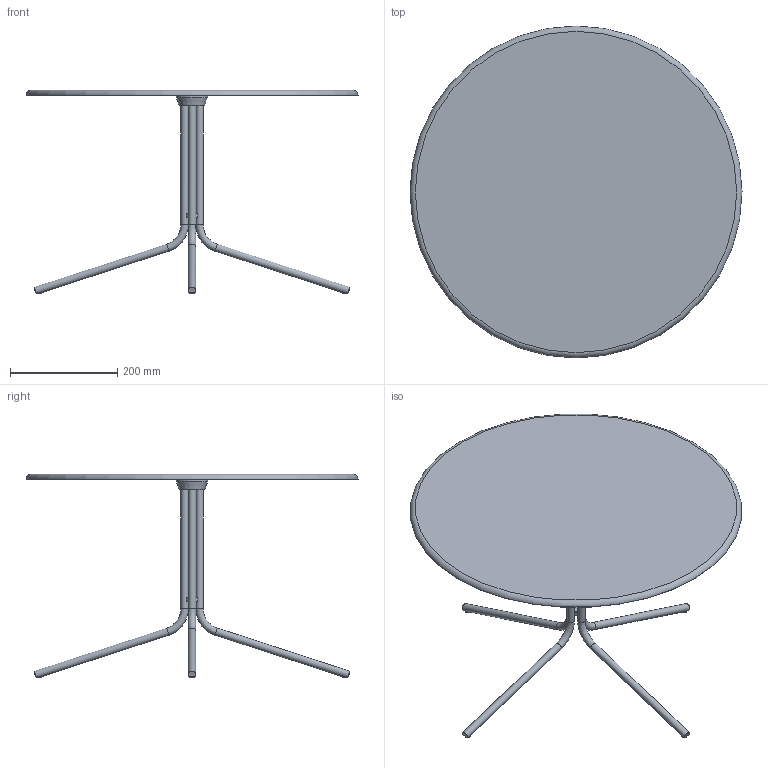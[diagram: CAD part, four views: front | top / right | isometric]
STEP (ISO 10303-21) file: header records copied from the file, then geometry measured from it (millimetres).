
FILE_DESCRIPTION((''),'2;1');
FILE_NAME('C:\AutodeskVault\AreaLavoro\Progetti\SoVeT Italia\2. Tavolini_Coffee tables\Genius\Genius Round\Web file\Genius Round Web\P4702.stp','2012-06-19T12:02:56',('Gianluca'),('So.Ve.T. s.r.l.'),'Autodesk Inventor 2013','Autodesk Inventor 2013','IL PROGETTO E'' DI ESCLUSIVA PROPRIETA'' DELLA SO.VE.T. srl. E'' VIETATA OGNI RIPRODUZIONE TOTALE O PARZIALE E QUALSIASI UTILIZZO NON AUTORIZZATO. ');
FILE_SCHEMA(('AUTOMOTIVE_DESIGN { 1 0 10303 214 1 1 1 1 }'));
Length unit declared in the file: millimetre
Products named in the file (1): P4702 LCTR Contorno semplificato
Bounding box: 620 x 620 x 380 mm (x, y, z)
Volume: 3355763.6 mm3; surface area: 711817.7 mm2
Topology: 1 solids, 1 shells, 68 faces, 193 edges, 122 vertices
Faces by surface type: plane 21, cylinder 17, cone 15, torus 11, sphere 4
Full cylindrical faces by diameter (mm): 10 x4, 14 x8, 58 x1
Entity records: 1972 total; most frequent: CARTESIAN_POINT 419, DIRECTION 316, ORIENTED_EDGE 258, AXIS2_PLACEMENT_3D 150, EDGE_CURVE 129, EDGE_LOOP 104, VERTEX_POINT 93, CIRCLE 69
